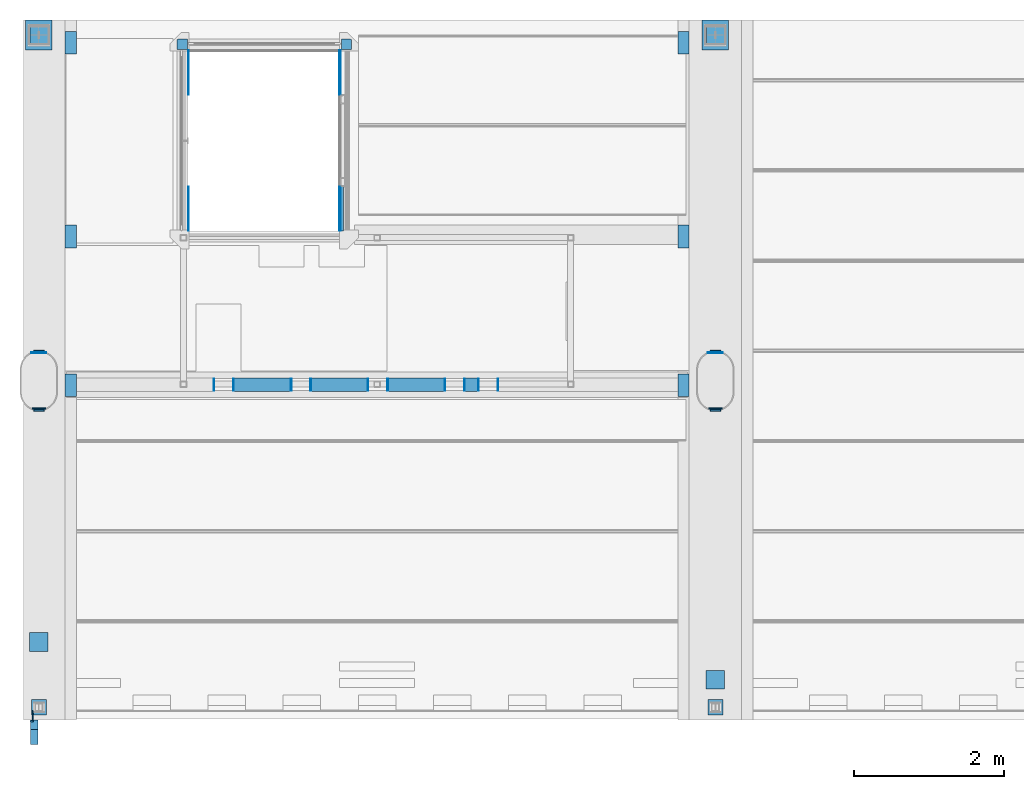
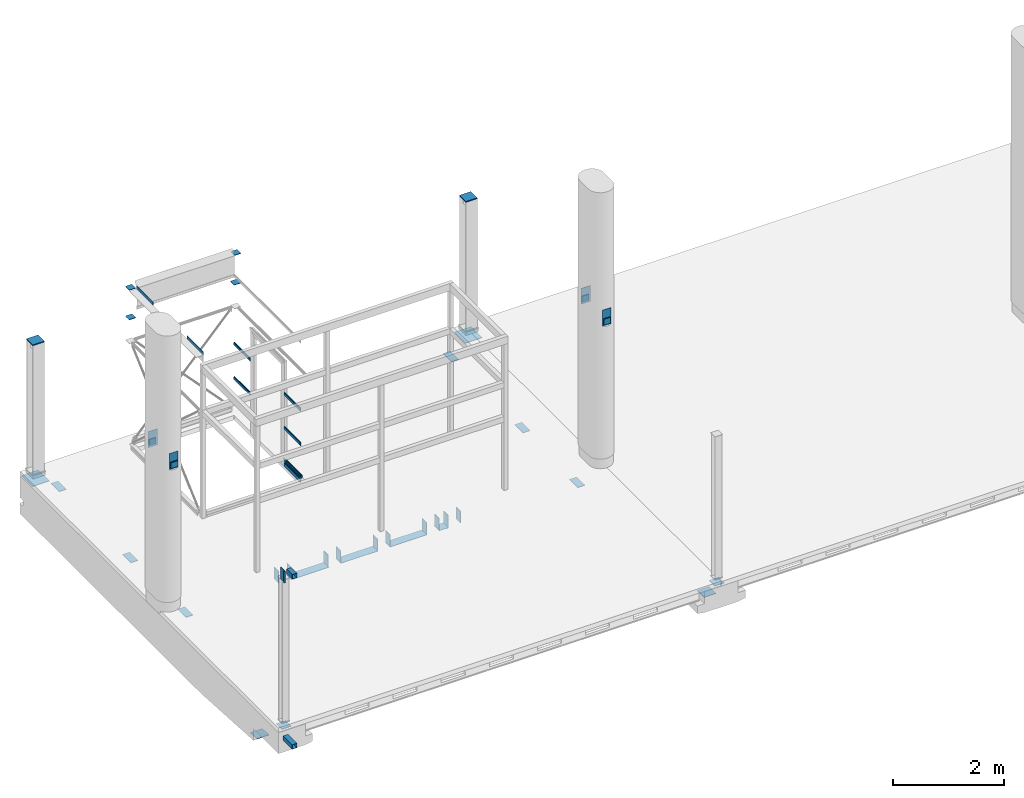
# One storey, part 11 of 15: 57 beams.
"""IFC2X3 building model written with IfcOpenShell, lengths in millimetres."""

from ifc_helpers import new_model, entity, si_unit, converted_unit, derived_unit, direction, frame, origin_with_axes, place, context, subcontext, project, spatial, faceted_brep, material, type_object, element, save


model = new_model("IFC2X3")

# Units and contexts
model_context = context("Model", 3, precision=0.01, world=frame((0.0, 4.29681676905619e-09, 0.0)), true_north=direction((4.01073788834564e-13, 1.0)))
plan_context = context("Plan", 3, precision=0.01, world=frame((0.0, 4.29681676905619e-09, 0.0)), true_north=direction((4.01073788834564e-13, 1.0)))
body_context = subcontext(model_context, "Body", "Model", "MODEL_VIEW")
ifc_project = project(units=[converted_unit("PLANEANGLEUNIT", "DEGREE", entity("IfcPositiveLengthMeasure", 0.0174532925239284), si_unit("PLANEANGLEUNIT", "RADIAN"), dimensions=[0, 0, 0, 0, 0, 0, 0]), si_unit("AREAUNIT", "SQUARE_METRE"), si_unit("LENGTHUNIT", "METRE", prefix="MILLI"), si_unit("MASSUNIT", "GRAM", prefix="KILO"), si_unit("POWERUNIT", "WATT"), si_unit("PRESSUREUNIT", "PASCAL", prefix="KILO"), si_unit("FORCEUNIT", "NEWTON", prefix="KILO"), si_unit("ELECTRICVOLTAGEUNIT", "VOLT"), si_unit("ELECTRICCURRENTUNIT", "AMPERE"), si_unit("THERMODYNAMICTEMPERATUREUNIT", "DEGREE_CELSIUS"), si_unit("TIMEUNIT", "SECOND"), si_unit("VOLUMEUNIT", "CUBIC_METRE"), derived_unit("LINEARVELOCITYUNIT", [(si_unit("LENGTHUNIT", "METRE"), 1), (si_unit("TIMEUNIT", "SECOND"), -1)]), derived_unit("VOLUMETRICFLOWRATEUNIT", [(si_unit("VOLUMEUNIT", "CUBIC_METRE"), 1), (si_unit("TIMEUNIT", "SECOND"), -1)]), derived_unit("THERMALTRANSMITTANCEUNIT", [(si_unit("POWERUNIT", "WATT"), 1), (si_unit("THERMODYNAMICTEMPERATUREUNIT", "KELVIN"), -1), (si_unit("AREAUNIT", "SQUARE_METRE"), -1)]), derived_unit("SOUNDPRESSUREUNIT", [(si_unit("PRESSUREUNIT", "PASCAL"), 1)])], contexts=[model_context, plan_context])

# Site, building, storey
site_placement = place(None, frame((0.0, -4.29681676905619e-09, 0.0), z_axis=(0.0, 0.0, 1.0), x_axis=(1.0, 0.0, 0.0)))
site = spatial("IfcSite", under=ifc_project, at=site_placement, Name="Gardermoen", CompositionType="ELEMENT")
building_placement = place(site_placement, frame((0.0, 4.29681676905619e-09, 0.0), z_axis=(0.0, 0.0, 1.0), x_axis=(1.0, 0.0, 0.0)))
building = spatial("IfcBuilding", under=site, at=building_placement, Name="TG", CompositionType="ELEMENT")
storey_placement = place(building_placement, origin_with_axes())
storey = spatial("IfcBuildingStorey", under=building, at=storey_placement, Name="F", CompositionType="ELEMENT", Elevation=0.0)

# Beams
ifc_material = material(Name="STEEL/S355")
beam_type_1 = type_object("IfcBeamType", Name="RHS80*40*4", PredefinedType="NOTDEFINED")
beam_1_placement = place(storey_placement, frame((326032.039641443, 464694.830478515, 210215.000638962), z_axis=(0.0, 0.0, 1.0), x_axis=(0.0, 1.0, 0.0)))
element("IfcBeam", 1, at=beam_1_placement, inside=storey, type_object=beam_type_1, material=ifc_material, Name="STÅLBJELKE", ObjectType="RHS80*40*4", context=body_context, shape_type="Brep", body=[
    faceted_brep([(0.0, 16.0, -36.0), (0.0, -16.0, -36.0), (590.000152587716, -16.00000000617, -36.0), (590.000152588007, 15.99999999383, -36.0), (0.0, -16.0, 36.0), (590.000152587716, -16.00000000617, 36.0), (0.0, 16.0, 36.0), (590.000152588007, 15.99999999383, 36.0), (0.0, 20.0, -40.0), (0.0, 20.0, 40.0), (590.000152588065, 19.99999999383, 40.0), (590.000152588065, 19.99999999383, -40.0), (0.0, -20.0, 40.0), (590.000152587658, -20.00000000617, 40.0), (0.0, -20.0, -40.0), (590.000152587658, -20.00000000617, -40.0)], [[[0, 1, 2, 3]], [[1, 4, 5, 2]], [[4, 6, 7, 5]], [[6, 0, 3, 7]], [[8, 9, 10, 11]], [[9, 12, 13, 10]], [[12, 14, 15, 13]], [[14, 8, 11, 15]], [[13, 15, 11, 10], [5, 7, 3, 2]], [[14, 12, 9, 8], [6, 4, 1, 0]]]),
])
beam_type_2 = type_object("IfcBeamType", Name="L150*75*12", PredefinedType="NOTDEFINED")
beam_2_placement = place(storey_placement, frame((321886.157330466, 458238.938269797, 213298.009234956), z_axis=(-4.91959982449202e-20, 0.999999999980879, 6.1839999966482e-06), x_axis=(3.56249999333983e-05, -6.18399999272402e-06, 0.999999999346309)))
element("IfcBeam", 2, at=beam_2_placement, inside=storey, type_object=beam_type_2, material=ifc_material, Name="STÅLBJELKE", ObjectType="L150*75*12", context=body_context, shape_type="Brep", body=[
    faceted_brep([(0.0, 37.5, -75.0), (0.0, 37.5, 75.0), (256.992564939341, 37.5000000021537, 75.0000000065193), (256.992564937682, 37.5000000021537, -74.9999999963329), (6.11180439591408e-10, 25.4999999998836, 75.0000000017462), (256.992564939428, 25.5000000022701, 75.0000000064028), (-9.02218744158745e-10, 25.4999999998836, -63.0000000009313), (256.992564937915, 25.5000000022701, -62.9999999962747), (256.992564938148, 2.49999996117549, -62.9999999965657), (256.992564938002, 2.49999996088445, -74.9999999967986), (-8.44011083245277e-10, 2.50915532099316, -75.0000000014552), (-6.98491930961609e-10, 2.5091553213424, -63.0000000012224)], [[[0, 1, 2, 3]], [[1, 4, 5, 2]], [[4, 6, 7, 5]], [[3, 2, 5, 7, 8, 9]], [[0, 3, 9, 10]], [[6, 4, 1, 0, 10, 11]], [[7, 6, 11, 8]], [[10, 9, 8, 11]]]),
])
beam_type_3 = type_object("IfcBeamType", Name="RHS100*4", PredefinedType="NOTDEFINED")
beam_3_placement = place(storey_placement, frame((321940.0, 458063.936299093, 213619.999980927), z_axis=(0.0, 0.0, 1.0), x_axis=(0.0, -1.0, 0.0)))
element("IfcBeam", 3, at=beam_3_placement, inside=storey, type_object=beam_type_3, material=ifc_material, Name="STÅLBJELKE", ObjectType="RHS100*4", context=body_context, shape_type="Brep", body=[
    faceted_brep([(0.0, 46.0, -46.0), (0.0, -46.0, -46.0), (199.99885559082, -46.0, -46.0), (199.99885559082, 46.0, -46.0), (0.0, -46.0, 46.0), (199.99885559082, -46.0, 46.0), (0.0, 46.0, 46.0), (199.99885559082, 46.0, 46.0), (0.0, 50.0, -50.0), (0.0, 50.0, 50.0), (199.99885559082, 50.0, 50.0), (199.99885559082, 50.0, -50.0), (0.0, -50.0, 50.0), (199.99885559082, -50.0, 50.0), (0.0, -50.0, -50.0), (199.99885559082, -50.0, -50.0)], [[[0, 1, 2, 3]], [[1, 4, 5, 2]], [[4, 6, 7, 5]], [[6, 0, 3, 7]], [[8, 9, 10, 11]], [[9, 12, 13, 10]], [[12, 14, 15, 13]], [[14, 8, 11, 15]], [[13, 15, 11, 10], [5, 7, 3, 2]], [[14, 12, 9, 8], [6, 4, 1, 0]]]),
])
beam_4_placement = place(storey_placement, frame((321939.999787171, 458188.936299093, 209880.000209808), z_axis=(0.0, 0.0, 1.0), x_axis=(0.0, -1.0, 0.0)))
element("IfcBeam", 4, at=beam_4_placement, inside=storey, type_object=beam_type_3, material=ifc_material, Name="STÅLBJELKE", ObjectType="RHS100*4", context=body_context, shape_type="Brep", body=[
    faceted_brep([(0.0, 46.0, -46.0), (0.0, -46.0, -46.0), (324.99885559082, -46.0, -46.0), (324.99885559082, 46.0, -46.0), (0.0, -46.0, 46.0), (324.99885559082, -46.0, 46.0), (0.0, 46.0, 46.0), (324.99885559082, 46.0, 46.0), (0.0, 50.0, -50.0), (0.0, 50.0, 50.0), (324.99885559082, 50.0, 50.0), (324.99885559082, 50.0, -50.0), (0.0, -50.0, 50.0), (324.99885559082, -50.0, 50.0), (0.0, -50.0, -50.0), (324.99885559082, -50.0, -50.0)], [[[0, 1, 2, 3]], [[1, 4, 5, 2]], [[4, 6, 7, 5]], [[6, 0, 3, 7]], [[8, 9, 10, 11]], [[9, 12, 13, 10]], [[12, 14, 15, 13]], [[14, 8, 11, 15]], [[13, 15, 11, 10], [5, 7, 3, 2]], [[14, 12, 9, 8], [6, 4, 1, 0]]]),
])
beam_type_4 = type_object("IfcBeamType", Name="50*12", PredefinedType="NOTDEFINED")
for number, where, z_axis, x_axis in (
    (5, (326006.039287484, 464694.830478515, 210255.000352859), (0.0, 0.0, 1.0), (0.0, 1.0, 0.0)),
    (6, (326006.039287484, 466504.829992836, 210955.000400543), (0.0, 0.0, 1.0), (0.0, 1.0, 0.0)),
    (7, (326006.039287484, 466504.829992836, 211705.000400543), (0.0, 0.0, 1.0), (0.0, 1.0, 0.0)),
    (8, (326006.039287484, 464694.830478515, 210955.000400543), (0.0, 0.0, 1.0), (0.0, 1.0, 0.0)),
    (9, (326006.039287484, 464694.830478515, 211705.000400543), (0.0, 0.0, 1.0), (0.0, 1.0, 0.0)),
):
    element("IfcBeam", number, at=place(storey_placement, frame(where, z_axis=z_axis, x_axis=x_axis)), inside=storey, type_object=beam_type_4, material=ifc_material, Name="STÅLBJELKE", ObjectType="50*12", context=body_context, shape_type="Brep", body=[
        faceted_brep([(0.0, 6.0, -25.0), (0.0, 6.0, 25.0), (590.184541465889, 5.99999999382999, 25.0), (590.184541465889, 5.99999999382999, -25.0), (0.0, -6.0, 25.0), (590.184541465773, -6.00000000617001, 25.0), (0.0, -6.0, -25.0), (590.184541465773, -6.00000000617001, -25.0)], [[[0, 1, 2, 3]], [[1, 4, 5, 2]], [[4, 6, 7, 5]], [[6, 0, 3, 7]], [[5, 7, 3, 2]], [[6, 4, 1, 0]]]),
    ])
beam_type_5 = type_object("IfcBeamType", Name="80*5", PredefinedType="NOTDEFINED")
for number, where, z_axis, x_axis in (
    (10, (326009.539287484, 464694.830478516, 210145.000162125), (0.0, 0.0, 1.0), (0.0, 1.0, 0.0)),
    (11, (326014.539287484, 466504.829992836, 210955.000267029), (0.0, 0.0, 1.0), (0.0, 1.0, 0.0)),
    (12, (326014.539287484, 466504.829992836, 211705.000267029), (0.0, 0.0, 1.0), (0.0, 1.0, 0.0)),
    (13, (326014.539287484, 464694.830478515, 210955.000267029), (0.0, 0.0, 1.0), (0.0, 1.0, 0.0)),
    (14, (326014.539287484, 464694.830478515, 211705.000267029), (0.0, 0.0, 1.0), (0.0, 1.0, 0.0)),
    (15, (323990.340244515, 464694.830478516, 213644.999923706), (0.0, 0.0, 1.0), (0.0, 1.0, 0.0)),
    (16, (323990.340244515, 466504.644980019, 213644.999923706), (0.0, 0.0, 1.0), (0.0, 1.0, 0.0)),
):
    element("IfcBeam", number, at=place(storey_placement, frame(where, z_axis=z_axis, x_axis=x_axis)), inside=storey, type_object=beam_type_5, material=ifc_material, Name="STÅLBJELKE", ObjectType="80*5", context=body_context, shape_type="Brep", body=[
        faceted_brep([(0.0, 2.5, -40.0), (0.0, 2.5, 40.0), (590.184541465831, 2.49999999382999, 40.0), (590.184541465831, 2.49999999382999, -40.0), (0.0, -2.5, 40.0), (590.184541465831, -2.50000000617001, 40.0), (0.0, -2.5, -40.0), (590.184541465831, -2.50000000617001, -40.0)], [[[0, 1, 2, 3]], [[1, 4, 5, 2]], [[4, 6, 7, 5]], [[6, 0, 3, 7]], [[5, 7, 3, 2]], [[6, 4, 1, 0]]]),
    ])
beam_type_6 = type_object("IfcBeamType", Name="40*5", PredefinedType="NOTDEFINED")
beam_5_placement = place(storey_placement, frame((325997.539404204, 464694.830478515, 210275.000219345), z_axis=(0.0, 0.0, 1.0), x_axis=(0.0, 1.0, 0.0)))
element("IfcBeam", 17, at=beam_5_placement, inside=storey, type_object=beam_type_6, material=ifc_material, Name="STÅLBJELKE", ObjectType="40*5", context=body_context, shape_type="Brep", body=[
    faceted_brep([(0.0, 2.5, -20.0), (0.0, 2.5, 20.0), (590.184541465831, 2.49999999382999, 20.0), (590.184541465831, 2.49999999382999, -20.0), (0.0, -2.5, 20.0), (590.184541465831, -2.50000000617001, 20.0), (0.0, -2.5, -20.0), (590.184541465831, -2.50000000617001, -20.0)], [[[0, 1, 2, 3]], [[1, 4, 5, 2]], [[4, 6, 7, 5]], [[6, 0, 3, 7]], [[5, 7, 3, 2]], [[6, 4, 1, 0]]]),
])
beam_type_7 = type_object("IfcBeamType", Name="PL10*138", PredefinedType="NOTDEFINED")
for number, where, z_axis, x_axis in (
    (18, (326024.017791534, 467244.659923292, 212979.859088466), (0.0, -1.0, 0.0), (0.99999999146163, 0.0, -0.000130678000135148)),
    (19, (323975.861740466, 467244.659923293, 212979.859088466), (0.0, -1.0, 0.0), (-0.99999999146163, 0.0, -0.000130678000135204)),
    (20, (326024.017791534, 467244.659923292, 213630.159114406), (0.0, -1.0, 0.0), (0.99999999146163, 0.0, -0.000130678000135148)),
    (21, (323975.861740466, 467244.659923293, 213630.159114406), (0.0, -1.0, 0.0), (-0.99999999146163, 0.0, -0.000130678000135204)),
):
    element("IfcBeam", number, at=place(storey_placement, frame(where, z_axis=z_axis, x_axis=x_axis)), inside=storey, type_object=beam_type_7, material=ifc_material, Name="STÅLBJELKE", ObjectType="PL10*138", context=body_context, shape_type="Brep", body=[
        faceted_brep([(5.82076609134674e-11, -5.0, 2.91038304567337e-11), (3.68338078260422e-07, -5.00000000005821, 137.83137512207), (3.68338078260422e-07, 5.00000000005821, 137.83137512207), (5.82076609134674e-11, 5.0, 2.91038304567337e-11), (137.836563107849, -5.00000000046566, 137.83137512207), (137.836563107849, 4.99999999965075, 137.83137512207), (137.836590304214, -5.00000000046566, 15.0000033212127), (137.836590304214, 4.99999999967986, 15.0000033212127), (137.460509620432, -5.00000000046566, 11.6621887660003), (137.460509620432, 4.99999999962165, 11.6621887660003), (136.351124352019, -5.00000000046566, 8.4917460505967), (136.351124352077, 4.99999999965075, 8.4917460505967), (134.564063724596, -5.00000000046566, 5.64765445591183), (134.564063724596, 4.99999999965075, 5.64765445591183), (132.188938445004, -5.00000000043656, 3.27252865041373), (132.188938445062, 4.99999999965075, 3.27252865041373), (129.344847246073, -5.00000000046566, 1.48546739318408), (129.344847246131, 4.99999999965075, 1.48546739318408), (126.174404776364, -5.00000000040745, 0.376081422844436), (126.174404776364, 4.99999999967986, 0.376081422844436), (122.836590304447, -5.00000000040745, 0.0), (122.836590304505, 4.99999999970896, 0.0)], [[[0, 1, 2, 3]], [[1, 4, 5, 2]], [[4, 6, 7, 5]], [[6, 8, 9, 7]], [[8, 10, 11, 9]], [[10, 12, 13, 11]], [[12, 14, 15, 13]], [[14, 16, 17, 15]], [[16, 18, 19, 17]], [[18, 20, 21, 19]], [[20, 0, 3, 21]], [[5, 7, 9, 11, 13, 15, 17, 19, 21, 3, 2]], [[20, 18, 16, 14, 12, 10, 8, 6, 4, 1, 0]]]),
    ])
beam_type_8 = type_object("IfcBeamType", Name="PL20*230", PredefinedType="NOTDEFINED")
for number, where, z_axis, x_axis in (
    (22, (321880.000703, 467415.004375, 213057.0), (0.0, -1.0, 0.0), (1.0, 0.0, 0.0)),
    (23, (331119.999765, 467415.004375, 213057.0), (0.0, -1.0, 0.0), (-1.0, 0.0, 0.0)),
):
    element("IfcBeam", number, at=place(storey_placement, frame(where, z_axis=z_axis, x_axis=x_axis)), inside=storey, type_object=beam_type_8, material=ifc_material, Name="STÅLBJELKE", ObjectType="PL20*230", context=body_context, shape_type="Brep", body=[
        faceted_brep([(0.0, -10.0, 0.0), (0.0, -10.0, 230.0), (0.0, 10.0, 230.0), (0.0, 10.0, 0.0), (240.0, -10.0, 230.0), (240.0, 10.0, 230.0), (240.0, -10.0, 0.0), (240.0, 10.0, 0.0)], [[[0, 1, 2, 3]], [[1, 4, 5, 2]], [[4, 6, 7, 5]], [[6, 0, 3, 7]], [[5, 7, 3, 2]], [[6, 4, 1, 0]]]),
    ])
beam_type_9 = type_object("IfcBeamType", Name="PL10*160", PredefinedType="NOTDEFINED")
for number, where, z_axis, x_axis in (
    (24, (324330.87775, 462569.99603, 210030.0), (0.0, 1.0, 0.0), (0.0, 0.0, -1.0)),
    (25, (324591.097347, 462569.99603, 210030.0), (0.0, 1.0, 0.0), (0.0, 0.0, -1.0)),
    (26, (325358.614414, 462569.99603, 210030.0), (0.0, 1.0, 0.0), (0.0, 0.0, -1.0)),
    (27, (325618.834011, 462569.99603, 210030.0), (0.0, 1.0, 0.0), (0.0, 0.0, -1.0)),
    (28, (326380.705326, 462569.99603, 210030.0), (0.0, 1.0, 0.0), (0.0, 0.0, -1.0)),
    (29, (326640.924923, 462569.99603, 210030.0), (0.0, 1.0, 0.0), (0.0, 0.0, -1.0)),
    (30, (327402.792423, 462569.99603, 210030.0), (0.0, 1.0, 0.0), (0.0, 0.0, -1.0)),
    (31, (327663.01202, 462569.99603, 210030.0), (0.0, 1.0, 0.0), (0.0, 0.0, -1.0)),
    (32, (327849.890201, 462569.99603, 210030.0), (0.0, 1.0, 0.0), (0.0, 0.0, -1.0)),
    (33, (328110.109799, 462569.99603, 210030.0), (0.0, 1.0, 0.0), (0.0, 0.0, -1.0)),
):
    element("IfcBeam", number, at=place(storey_placement, frame(where, z_axis=z_axis, x_axis=x_axis)), inside=storey, type_object=beam_type_9, material=ifc_material, Name="STÅLBJELKE", ObjectType="PL10*160", context=body_context, shape_type="Brep", body=[
        faceted_brep([(5.82076609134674e-11, -5.0, 2.91038304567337e-11), (0.0, -5.0, 159.999847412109), (0.0, 5.0, 159.999847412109), (5.82076609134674e-11, 5.0, 2.91038304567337e-11), (260.0, -5.0, 159.999847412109), (260.0, 5.0, 159.999847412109), (260.000000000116, -5.0, -2.73576006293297e-08), (260.000000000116, 5.0, -2.73576006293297e-08)], [[[0, 1, 2, 3]], [[1, 4, 5, 2]], [[4, 6, 7, 5]], [[6, 0, 3, 7]], [[5, 7, 3, 2]], [[6, 4, 1, 0]]]),
    ])
beam_type_10 = type_object("IfcBeamType", Name="25*140", PredefinedType="NOTDEFINED")
for number, where, z_axis, x_axis in (
    (34, (330999.999125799, 463091.495624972, 213457.0), (0.0, 1.0, 0.0), (0.0, 0.0, -1.0)),
    (35, (330999.999125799, 462308.504375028, 213425.0), (0.0, -1.0, 0.0), (0.0, 0.0, -1.0)),
    (36, (321999.999125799, 463091.495624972, 213457.0), (0.0, 1.0, 0.0), (0.0, 0.0, -1.0)),
    (37, (321999.999125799, 462308.504375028, 213425.0), (0.0, -1.0, 0.0), (0.0, 0.0, -1.0)),
):
    element("IfcBeam", number, at=place(storey_placement, frame(where, z_axis=z_axis, x_axis=x_axis)), inside=storey, type_object=beam_type_10, material=ifc_material, Name="STÅLBJELKE", ObjectType="25*140", context=body_context, shape_type="Brep", body=[
        faceted_brep([(5.82076609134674e-10, 69.9999999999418, -12.5000000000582), (6.98491930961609e-10, 69.9999999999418, 12.5), (129.999999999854, 69.9999999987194, 12.5000000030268), (129.999999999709, 69.9999999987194, -12.4999999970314), (-6.11180439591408e-10, -70.0000000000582, 12.5), (129.999999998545, -70.0000000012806, 12.5000000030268), (-7.27595761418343e-10, -70.0000000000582, -12.5000000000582), (129.999999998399, -70.0000000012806, -12.4999999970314)], [[[0, 1, 2, 3]], [[1, 4, 5, 2]], [[4, 6, 7, 5]], [[6, 0, 3, 7]], [[5, 7, 3, 2]], [[6, 4, 1, 0]]]),
    ])
beam_type_11 = type_object("IfcBeamType", Name="20*180", PredefinedType="NOTDEFINED")
for number, where, z_axis, x_axis in (
    (38, (330999.999766, 462331.004375, 213265.0), (0.0, 1.0, 0.0), (0.0, 0.0, 1.0)),
    (39, (321999.999766, 462331.004375, 213265.0), (0.0, 1.0, 0.0), (0.0, 0.0, 1.0)),
):
    element("IfcBeam", number, at=place(storey_placement, frame(where, z_axis=z_axis, x_axis=x_axis)), inside=storey, type_object=beam_type_11, material=ifc_material, Name="INNSTØPNGODS", ObjectType="20*180", context=body_context, shape_type="Brep", body=[
        faceted_brep([(0.0, 90.0, -10.0), (0.0, 90.0, 10.0), (350.0, 90.0, 10.0), (350.0, 90.0, -10.0), (0.0, -90.0, 10.0), (350.0, -90.0, 10.0), (0.0, -90.0, -10.0), (350.0, -90.0, -10.0)], [[[0, 1, 2, 3]], [[1, 4, 5, 2]], [[4, 6, 7, 5]], [[6, 0, 3, 7]], [[5, 7, 3, 2]], [[6, 4, 1, 0]]]),
    ])
beam_type_12 = type_object("IfcBeamType", Name="10*200", PredefinedType="NOTDEFINED")
for number, where, z_axis, x_axis in (
    (40, (330999.999766, 463073.995625, 213297.0), (0.0, -1.0, 0.0), (0.0, 0.0, 1.0)),
    (41, (321999.999766, 463073.995625, 213297.0), (0.0, -1.0, 0.0), (0.0, 0.0, 1.0)),
):
    element("IfcBeam", number, at=place(storey_placement, frame(where, z_axis=z_axis, x_axis=x_axis)), inside=storey, type_object=beam_type_12, material=ifc_material, Name="INNSTØPNGODS", ObjectType="10*200", context=body_context, shape_type="Brep", body=[
        faceted_brep([(0.0, 100.0, -5.0), (0.0, 100.0, 5.0), (350.0, 100.0, 5.0), (350.0, 100.0, -5.0), (0.0, -100.0, 5.0), (350.0, -100.0, 5.0), (0.0, -100.0, -5.0), (350.0, -100.0, -5.0)], [[[0, 1, 2, 3]], [[1, 4, 5, 2]], [[4, 6, 7, 5]], [[6, 0, 3, 7]], [[5, 7, 3, 2]], [[6, 4, 1, 0]]]),
    ])
beam_type_13 = type_object("IfcBeamType", Name="150*10", PredefinedType="NOTDEFINED")
for number, where, z_axis, x_axis in (
    (42, (330575.001308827, 467050.253387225, 209760.0), (1.0, 0.0, 0.0), (0.0, 1.0, 0.0)),
    (43, (322424.999782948, 462490.252776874, 209760.0), (1.0, 0.0, 0.0), (0.0, 1.0, 0.0)),
    (44, (322424.999782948, 464470.25231911, 209760.0), (1.0, 0.0, 0.0), (0.0, 1.0, 0.0)),
    (45, (322424.999782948, 467050.250335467, 209760.0), (1.0, 0.0, 0.0), (0.0, 1.0, 0.0)),
    (46, (330575.001308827, 464470.25231911, 209760.0), (1.0, 0.0, 0.0), (0.0, 1.0, 0.0)),
    (47, (330575.001308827, 462490.252776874, 209760.0), (1.0, 0.0, 0.0), (0.0, 1.0, 0.0)),
):
    element("IfcBeam", number, at=place(storey_placement, frame(where, z_axis=z_axis, x_axis=x_axis)), inside=storey, type_object=beam_type_13, material=ifc_material, Name="INNSTØPNGODS", ObjectType="150*10", context=body_context, shape_type="Brep", body=[
        faceted_brep([(0.0, 5.0, -75.0), (0.0, 5.0, 75.0), (300.0, 5.0, 75.0), (300.0, 5.0, -75.0), (0.0, -5.0, 75.0), (300.0, -5.0, 75.0), (0.0, -5.0, -75.0), (300.0, -5.0, -75.0)], [[[0, 1, 2, 3]], [[1, 4, 5, 2]], [[4, 6, 7, 5]], [[6, 0, 3, 7]], [[5, 7, 3, 2]], [[6, 4, 1, 0]]]),
    ])
beam_type_14 = type_object("IfcBeamType", Name="250*10", PredefinedType="NOTDEFINED")
for number, where, z_axis, x_axis in (
    (48, (330999.99993692, 458600.002853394, 209575.00076294), (0.999999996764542, 8.04419999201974e-05, 0.0), (-8.04419999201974e-05, 0.999999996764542, 0.0)),
    (49, (322000.015539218, 459349.353835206, 209300.50097129), (0.999999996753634, -8.05774925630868e-05, -2.94516955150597e-11), (-8.04419999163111e-05, -0.998318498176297, 0.0579669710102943)),
):
    element("IfcBeam", number, at=place(storey_placement, frame(where, z_axis=z_axis, x_axis=x_axis)), inside=storey, type_object=beam_type_14, material=ifc_material, Name="INNSTØPNGODS", ObjectType="250*10", context=body_context, shape_type="Brep", body=[
        faceted_brep([(0.0, 5.0, -125.0), (0.0, 5.0, 125.0), (250.0, 5.0, 125.0), (250.0, 5.0, -125.0), (0.0, -5.0, 125.0), (250.0, -5.0, 125.0), (0.0, -5.0, -125.0), (250.0, -5.0, -125.0)], [[[0, 1, 2, 3]], [[1, 4, 5, 2]], [[4, 6, 7, 5]], [[6, 0, 3, 7]], [[5, 7, 3, 2]], [[6, 4, 1, 0]]]),
    ])
beam_type_15 = type_object("IfcBeamType", Name="350*10", PredefinedType="NOTDEFINED")
for number, where, z_axis, x_axis in (
    (50, (322000.03450451, 467500.449349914, 210025.0), (-0.999999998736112, 5.02770000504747e-05, 0.0), (-5.02770000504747e-05, -0.999999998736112, 0.0)),
    (51, (331000.03450451, 467500.449349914, 210025.0), (-0.999999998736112, 5.02770000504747e-05, 0.0), (-5.02770000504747e-05, -0.999999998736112, 0.0)),
):
    element("IfcBeam", number, at=place(storey_placement, frame(where, z_axis=z_axis, x_axis=x_axis)), inside=storey, type_object=beam_type_15, material=ifc_material, Name="INNSTØPNGODS", ObjectType="350*10", context=body_context, shape_type="Brep", body=[
        faceted_brep([(-2.91038304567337e-09, 5.0, -174.999999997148), (0.0, 5.0, 175.0), (399.997711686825, 5.0, 174.999999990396), (399.997711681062, 5.0, -175.000000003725), (0.0, -5.0, 175.0), (399.997711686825, -5.0, 174.999999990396), (-2.91038304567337e-09, -5.0, -174.999999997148), (399.997711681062, -5.0, -175.000000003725)], [[[0, 1, 2, 3]], [[1, 4, 5, 2]], [[4, 6, 7, 5]], [[6, 0, 3, 7]], [[5, 7, 3, 2]], [[6, 4, 1, 0]]]),
    ])
beam_type_16 = type_object("IfcBeamType", Name="200*10", PredefinedType="NOTDEFINED")
for number, where, z_axis, x_axis in (
    (52, (331000.03448176, 458458.004372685, 210025.0), (-0.999999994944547, 0.000100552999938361, 0.0), (-0.000100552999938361, -0.999999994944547, 0.0)),
    (53, (322000.03448176, 458458.004372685, 210025.0), (-0.999999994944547, 0.000100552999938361, 0.0), (-0.000100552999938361, -0.999999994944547, 0.0)),
):
    element("IfcBeam", number, at=place(storey_placement, frame(where, z_axis=z_axis, x_axis=x_axis)), inside=storey, type_object=beam_type_16, material=ifc_material, Name="INNSTØPNGODS", ObjectType="200*10", context=body_context, shape_type="Brep", body=[
        faceted_brep([(0.0, 5.0, -100.0), (0.0, 5.0, 100.0), (200.000000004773, 5.0, 100.000000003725), (200.000000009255, 5.0, -99.9999999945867), (0.0, -5.0, 100.0), (200.000000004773, -5.0, 100.000000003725), (0.0, -5.0, -100.0), (200.000000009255, -5.0, -99.9999999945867)], [[[0, 1, 2, 3]], [[1, 4, 5, 2]], [[4, 6, 7, 5]], [[6, 0, 3, 7]], [[5, 7, 3, 2]], [[6, 4, 1, 0]]]),
    ])
beam_type_17 = type_object("IfcBeamType", Name="PL10*180", PredefinedType="NOTDEFINED")
beam_6_placement = place(storey_placement, frame((324586.097362, 462739.995877, 209765.0), z_axis=(0.0, -1.0, 0.0), x_axis=(1.0, 0.0, 0.0)))
element("IfcBeam", 54, at=beam_6_placement, inside=storey, type_object=beam_type_17, material=ifc_material, Name="STÅLBJELKE", ObjectType="PL10*180", context=body_context, shape_type="Brep", body=[
    faceted_brep([(5.82076609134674e-11, -5.0, 2.91038304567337e-11), (-4.70000086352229e-05, -5.0, 179.999847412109), (-4.70000086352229e-05, 5.0, 179.999847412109), (5.82076609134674e-11, 5.0, 2.91038304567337e-11), (777.509643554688, -5.0, 180.000076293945), (777.509643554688, 5.0, 180.000076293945), (777.5244140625, -5.0, 0.0), (777.5244140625, 5.0, 0.0)], [[[0, 1, 2, 3]], [[1, 4, 5, 2]], [[4, 6, 7, 5]], [[6, 0, 3, 7]], [[5, 7, 3, 2]], [[6, 4, 1, 0]]]),
])
for number, where, z_axis, x_axis in (
    (55, (325613.834026, 462739.995877, 209765.0), (0.0, -1.0, 0.0), (1.0, 0.0, 0.0)),
    (56, (326635.924938, 462739.995877, 209765.0), (0.0, -1.0, 0.0), (1.0, 0.0, 0.0)),
):
    element("IfcBeam", number, at=place(storey_placement, frame(where, z_axis=z_axis, x_axis=x_axis)), inside=storey, type_object=beam_type_17, material=ifc_material, Name="STÅLBJELKE", ObjectType="PL10*180", context=body_context, shape_type="Brep", body=[
        faceted_brep([(5.82076609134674e-11, -5.0, 2.91038304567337e-11), (-4.70000086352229e-05, -5.0, 179.999847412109), (-4.70000086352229e-05, 5.0, 179.999847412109), (5.82076609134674e-11, 5.0, 2.91038304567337e-11), (772.098754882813, -5.0, 180.000076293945), (772.098754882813, 5.0, 180.000076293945), (772.113525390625, -5.0, 0.0), (772.113525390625, 5.0, 0.0)], [[[0, 1, 2, 3]], [[1, 4, 5, 2]], [[4, 6, 7, 5]], [[6, 0, 3, 7]], [[5, 7, 3, 2]], [[6, 4, 1, 0]]]),
    ])
beam_7_placement = place(storey_placement, frame((327658.01203, 462739.995877, 209765.0), z_axis=(0.0, -1.0, 0.0), x_axis=(1.0, 0.0, 0.0)))
element("IfcBeam", 57, at=beam_7_placement, inside=storey, type_object=beam_type_17, material=ifc_material, Name="STÅLBJELKE", ObjectType="PL10*180", context=body_context, shape_type="Brep", body=[
    faceted_brep([(5.82076609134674e-11, -5.0, 2.91038304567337e-11), (-0.000151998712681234, -5.0, 179.999847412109), (-0.000151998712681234, 5.0, 179.999847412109), (5.82076609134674e-11, 5.0, 2.91038304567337e-11), (197.094085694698, -5.0, 180.000076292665), (197.094085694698, 5.0, 180.000076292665), (197.108963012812, -5.0, -1.33877620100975e-09), (197.108963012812, 5.0, -1.33877620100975e-09)], [[[0, 1, 2, 3]], [[1, 4, 5, 2]], [[4, 6, 7, 5]], [[6, 0, 3, 7]], [[5, 7, 3, 2]], [[6, 4, 1, 0]]]),
])

save(model, "model.ifc")
